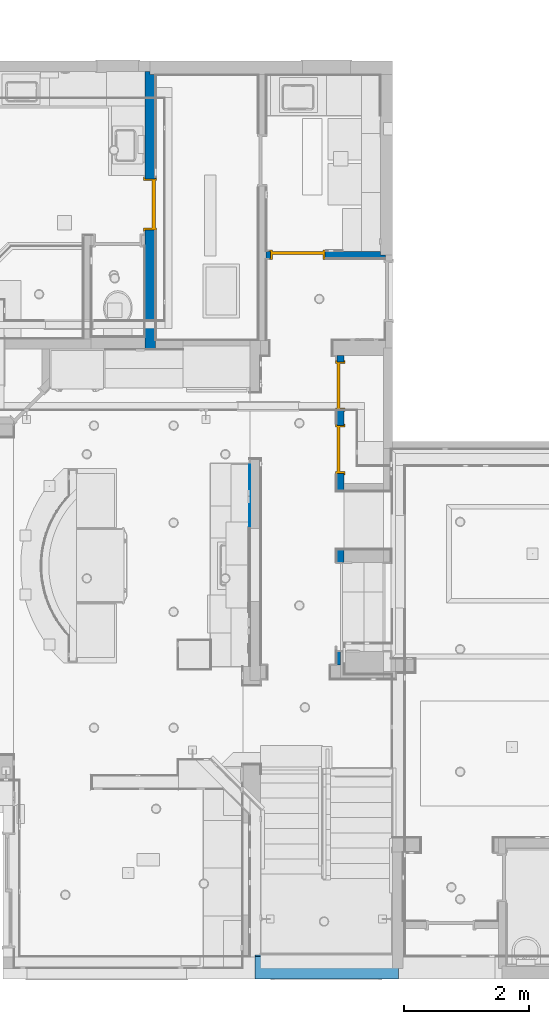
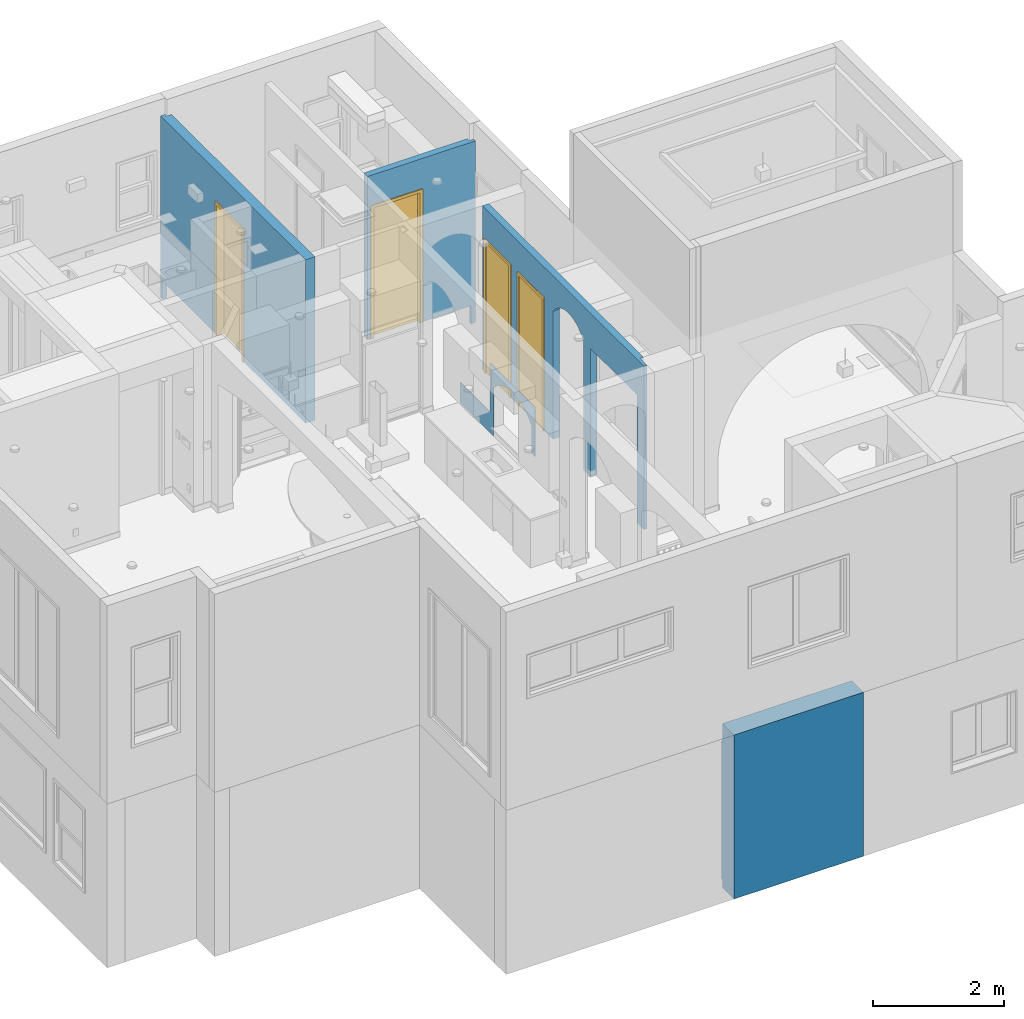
# One storey, part 28 of 60: 5 walls, 4 doors, 4 openings.
"""IFC2X3 building model written with IfcOpenShell, lengths in feet."""

import ifcopenshell
import ifcopenshell.guid

model = None  # the IFC model being written
_history = None  # IfcOwnerHistory: only IFC2X3 demands one
_inside = {}  # id of a spatial element -> (the spatial element, [elements in it])
_under = {}  # id of a project, library or spatial element -> (it, [spatial elements below it])
_declared = {}  # id of a project -> (the project, [libraries it declares])
_typed = {}  # id of a type object -> (the type object, [elements of that type])
_made_of = {}  # id of a material, layer set ... -> (it, [elements and type objects made of it])


def new_model(schema):
    """Start an empty IFC model of exactly this schema.

    Asked for "IFC4X3", IfcOpenShell would pick the latest addendum, in which some entities
    have other attributes; the version numbers below select the first issue.
    IFC2X3 requires an IfcOwnerHistory on every rooted entity: one is made here for all.
    """
    global model, _history
    if schema == "IFC4X3":
        model = ifcopenshell.file(schema_version=(4, 3, 0, 0))
    else:
        model = ifcopenshell.file(schema=schema)
    _inside.clear()
    _under.clear()
    _declared.clear()
    _typed.clear()
    _made_of.clear()
    _history = None
    if model.schema == "IFC2X3":
        org = make("IfcOrganization", Name="unknown")
        user = make(
            "IfcPersonAndOrganization",
            ThePerson=make("IfcPerson", FamilyName="unknown"),
            TheOrganization=org,
        )
        app = make(
            "IfcApplication",
            ApplicationDeveloper=org,
            Version="unknown",
            ApplicationFullName="unknown",
            ApplicationIdentifier="unknown",
        )
        _history = make(
            "IfcOwnerHistory",
            OwningUser=user,
            OwningApplication=app,
            ChangeAction="ADDED",
            CreationDate=0,
        )
    return model


def make(cls, **values):
    """One entity of the class cls with the attributes given. An attribute that is None is left unset."""
    return model.create_entity(
        cls, **{name: value for name, value in values.items() if value is not None}
    )


def entity(cls, *values):
    """Any entity or typed value of the class cls, its attributes in the order of the schema. None: left unset."""
    e = model.create_entity(cls)
    for i, value in enumerate(values):
        if value is not None:
            e[i] = value
    return e


def rooted(cls, **values):
    """An entity with a GlobalId (a new one), such as an element, a storey or a relation."""
    return make(cls, GlobalId=ifcopenshell.guid.new(), OwnerHistory=_history, **values)


def si_unit(unit_type, name, prefix=None):
    """IfcSIUnit, for example si_unit("LENGTHUNIT", "METRE", prefix="MILLI")."""
    return make("IfcSIUnit", UnitType=unit_type, Prefix=prefix, Name=name)


def converted_unit(unit_type, name, factor, base, dimensions=None, offset=None):
    """IfcConversionBasedUnit, such as the inch: factor (a typed value) times the base unit."""
    return make(
        "IfcConversionBasedUnit"
        if offset is None
        else "IfcConversionBasedUnitWithOffset",
        ConversionOffset=offset,
        Dimensions=None
        if dimensions is None
        else entity("IfcDimensionalExponents", *dimensions),
        UnitType=unit_type,
        Name=name,
        ConversionFactor=make(
            "IfcMeasureWithUnit", ValueComponent=factor, UnitComponent=base
        ),
    )


def assignment(units):
    """IfcUnitAssignment: the units of a project."""
    return None if units is None else make("IfcUnitAssignment", Units=units)


def point(xyz):
    """IfcCartesianPoint."""
    return None if xyz is None else make("IfcCartesianPoint", Coordinates=xyz)


def direction(xyz):
    """IfcDirection."""
    return None if xyz is None else make("IfcDirection", DirectionRatios=xyz)


def frame(location, z_axis=None, x_axis=None):
    """IfcAxis2Placement3D, a coordinate frame: its origin and axes. An axis left out is left unset."""
    return make(
        "IfcAxis2Placement3D",
        Location=point(location),
        Axis=direction(z_axis),
        RefDirection=direction(x_axis),
    )


def frame_2d(location, x_axis=None):
    """IfcAxis2Placement2D, a coordinate frame in the plane: its origin and x axis."""
    return make(
        "IfcAxis2Placement2D", Location=point(location), RefDirection=direction(x_axis)
    )


def origin():
    """The frame at (0, 0, 0) with its axes left unset."""
    return frame((0.0, 0.0, 0.0))


def origin_2d_with_axis():
    """The frame at (0, 0) in the plane with the x axis (1, 0) written out."""
    return frame_2d((0.0, 0.0), x_axis=(1.0, 0.0))


def place(relative_to, where):
    """IfcLocalPlacement: puts the frame where relative to a parent placement (None: the world)."""
    return make(
        "IfcLocalPlacement", PlacementRelTo=relative_to, RelativePlacement=where
    )


def context(
    kind, dimensions, precision=None, world=None, true_north=None, identifier=None
):
    """IfcGeometricRepresentationContext, for example the 3D "Model" context."""
    return make(
        "IfcGeometricRepresentationContext",
        ContextIdentifier=identifier,
        ContextType=kind,
        CoordinateSpaceDimension=dimensions,
        Precision=precision,
        WorldCoordinateSystem=world,
        TrueNorth=true_north,
    )


def subcontext(parent, identifier, kind, view, scale=None):
    """IfcGeometricRepresentationSubContext, for example "Body" below "Model"."""
    return make(
        "IfcGeometricRepresentationSubContext",
        ContextIdentifier=identifier,
        ContextType=kind,
        ParentContext=parent,
        TargetScale=scale,
        TargetView=view,
    )


def project(units=None, contexts=None):
    """IfcProject with its units and contexts."""
    return rooted(
        "IfcProject",
        Name="project",
        RepresentationContexts=contexts,
        UnitsInContext=assignment(units),
    )


def spatial(cls, under=None, at=None, **own):
    """A site, building, storey or space (cls), placed at a placement, below another one or the project."""
    s = rooted(cls, ObjectPlacement=at, **own)
    if under is not None:
        _under.setdefault(under.id(), (under, []))[1].append(s)
    return s


def polyline(points):
    """IfcPolyline through the points."""
    return make("IfcPolyline", Points=[point(p) for p in points])


def profile(cls, at=None, kind="AREA", **sizes):
    """A parametric profile (cls). Its sizes go by their IFC names, for example OverallWidth=200.0."""
    return make(cls, ProfileType=kind, Position=at, **sizes)


def rectangle(**sizes):
    """IfcRectangleProfileDef."""
    return profile("IfcRectangleProfileDef", **sizes)


def outline(outer, holes=None, kind="AREA"):
    """IfcArbitraryClosedProfileDef: a profile drawn as a closed curve; with holes, ...WithVoids."""
    if holes is None:
        return make("IfcArbitraryClosedProfileDef", ProfileType=kind, OuterCurve=outer)
    return make(
        "IfcArbitraryProfileDefWithVoids",
        ProfileType=kind,
        OuterCurve=outer,
        InnerCurves=holes,
    )


def extrude(swept, where, along, depth):
    """IfcExtrudedAreaSolid: the profile swept, set in the frame where, extruded along a direction by depth."""
    return make(
        "IfcExtrudedAreaSolid",
        SweptArea=swept,
        Position=where,
        ExtrudedDirection=direction(along),
        Depth=depth,
    )


def faces_of(points, faces, orient=None, outer=None):
    """IfcFace entities. A face is a list of loops; a loop is a list of indices into points, from 0.

    orient and outer hold one flag for each loop. By default every Orientation is true, the
    first loop of a face is its IfcFaceOuterBound and the others are IfcFaceBound.
    """
    made = []
    for i, loops in enumerate(faces):
        bounds = []
        for j, loop in enumerate(loops):
            is_outer = j == 0 if outer is None else outer[i][j]
            bounds.append(
                make(
                    "IfcFaceOuterBound" if is_outer else "IfcFaceBound",
                    Bound=make("IfcPolyLoop", Polygon=[points[k] for k in loop]),
                    Orientation=True if orient is None else orient[i][j],
                )
            )
        made.append(make("IfcFace", Bounds=bounds))
    return made


def faceted_brep(points, faces, orient=None, outer=None, voids=None):
    """IfcFacetedBrep: a solid bounded by flat faces; with voids (closed shells), ...WithVoids."""
    shared = [point(p) for p in points]
    hull = make("IfcClosedShell", CfsFaces=faces_of(shared, faces, orient, outer))
    if voids is None:
        return make("IfcFacetedBrep", Outer=hull)
    return make(
        "IfcFacetedBrepWithVoids",
        Outer=hull,
        Voids=[
            make(cls, CfsFaces=faces_of(shared, fs, o, b)) for cls, fs, o, b in voids
        ],
    )


def shape(context_of_items, identifier, shape_type, items):
    """IfcShapeRepresentation: the items that make up one representation, for example the "Body"."""
    return make(
        "IfcShapeRepresentation",
        ContextOfItems=context_of_items,
        RepresentationIdentifier=identifier,
        RepresentationType=shape_type,
        Items=items,
    )


def source(mapping_origin, context_of_items, identifier, shape_type, items):
    """IfcRepresentationMap: a shape defined once, which mapped items show again and again."""
    return make(
        "IfcRepresentationMap",
        MappingOrigin=mapping_origin,
        MappedRepresentation=shape(context_of_items, identifier, shape_type, items),
    )


def transform(
    local_origin,
    x_axis=None,
    y_axis=None,
    z_axis=None,
    scale=None,
    scale2=None,
    scale3=None,
    uniform=True,
):
    """IfcCartesianTransformationOperator3D, or its non-uniform kind. x_axis, y_axis, z_axis: its Axis1, 2, 3."""
    if uniform:
        return make(
            "IfcCartesianTransformationOperator3D",
            Axis1=direction(x_axis),
            Axis2=direction(y_axis),
            LocalOrigin=point(local_origin),
            Scale=scale,
            Axis3=direction(z_axis),
        )
    return make(
        "IfcCartesianTransformationOperator3DnonUniform",
        Axis1=direction(x_axis),
        Axis2=direction(y_axis),
        LocalOrigin=point(local_origin),
        Scale=scale,
        Axis3=direction(z_axis),
        Scale2=scale2,
        Scale3=scale3,
    )


def mapped(mapping_source, mapping_target):
    """IfcMappedItem: shows the shape of a source again, moved by a transform."""
    return make(
        "IfcMappedItem", MappingSource=mapping_source, MappingTarget=mapping_target
    )


def material(Name=None, Category=None):
    """IfcMaterial."""
    return make("IfcMaterial", Name=Name, Category=Category)


def layer(
    of_material, thickness, ventilated=None, Name=None, Category=None, Priority=None
):
    """IfcMaterialLayer: one layer of a wall or slab, of a material (None: an air gap)."""
    return make(
        "IfcMaterialLayer",
        Material=of_material,
        LayerThickness=thickness,
        IsVentilated=ventilated,
        Name=Name,
        Category=Category,
        Priority=Priority,
    )


def layer_set(layers, Name=None):
    """IfcMaterialLayerSet."""
    return make("IfcMaterialLayerSet", MaterialLayers=layers, LayerSetName=Name)


def made_of(thing, what):
    """Note that an element or type object is made of a material, layer set ...; save() writes the relation."""
    if what is not None:
        _made_of.setdefault(what.id(), (what, []))[1].append(thing)
    return thing


def type_object(cls, material=None, **own):
    """A type object (cls), such as IfcWallType, which elements share."""
    return made_of(rooted(cls, **own), material)


def type_shapes(of_type, sources):
    """Give a type object the sources (RepresentationMaps) that its elements show as mapped items."""
    of_type.RepresentationMaps = sources


def element(
    cls,
    number,
    at=None,
    inside=None,
    cuts=None,
    type_object=None,
    material=None,
    context=None,
    identifier="Body",
    shape_type=None,
    held_by="IfcProductDefinitionShape",
    body=None,
    shapes=None,
    **own,
):
    """One element of the class cls, such as IfcWall. Its Tag is "e" and its number.

    at: its placement. inside: the storey or other place that contains it. cuts: it is an
    opening in that element (IfcRelVoidsElement). A single representation is given by context,
    identifier, shape_type and body (its items); several are given by shapes. held_by: the class
    of the entity that holds the representations. save() writes the other relations.
    """
    e = rooted(cls, Tag="e%d" % number, ObjectPlacement=at, **own)
    if body is not None:
        shapes = [shape(context, identifier, shape_type, body)]
    if shapes is not None:
        e.Representation = make(held_by, Representations=shapes)
    if inside is not None:
        _inside.setdefault(inside.id(), (inside, []))[1].append(e)
    if cuts is not None:
        rooted(
            "IfcRelVoidsElement", RelatingBuildingElement=cuts, RelatedOpeningElement=e
        )
    if type_object is not None:
        _typed.setdefault(type_object.id(), (type_object, []))[1].append(e)
    return made_of(e, material)


def fill(opening, filler):
    """IfcRelFillsElement: the door or window that sits in an opening."""
    return rooted(
        "IfcRelFillsElement",
        RelatingOpeningElement=opening,
        RelatedBuildingElement=filler,
    )


def aggregate(whole, parts):
    """IfcRelAggregates: a whole, such as a stair, and the parts it consists of."""
    return rooted("IfcRelAggregates", RelatingObject=whole, RelatedObjects=parts)


def save(model, path):
    """Write the relations noted so far, then the file.

    IfcRelAggregates (storeys below a building ...), IfcRelContainedInSpatialStructure (elements
    in a storey), IfcRelDefinesByType, IfcRelAssociatesMaterial and IfcRelDeclares: one each for
    every whole, place, type object, material and project.
    """
    for whole, parts in _under.values():
        aggregate(whole, parts)
    for where, things in _inside.values():
        rooted(
            "IfcRelContainedInSpatialStructure",
            RelatedElements=things,
            RelatingStructure=where,
        )
    for kind, things in _typed.values():
        rooted("IfcRelDefinesByType", RelatedObjects=things, RelatingType=kind)
    for what, things in _made_of.values():
        rooted("IfcRelAssociatesMaterial", RelatedObjects=things, RelatingMaterial=what)
    for by, libraries in _declared.values():
        rooted("IfcRelDeclares", RelatingContext=by, RelatedDefinitions=libraries)
    model.write(path)


model = new_model("IFC2X3")

# Units and contexts
model_context = context("Model", 3, precision=0.0001, world=origin(), true_north=direction((6.123031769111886e-17, 1.0)))
plan_context = context("Plan", 3, precision=0.0001, world=origin(), true_north=direction((6.123031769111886e-17, 1.0)))
body_context = subcontext(model_context, "Body", "Model", "MODEL_VIEW")
ifc_project = project(units=[converted_unit("LENGTHUNIT", "FOOT", entity("IfcLengthMeasure", 0.3048), si_unit("LENGTHUNIT", "METRE"), dimensions=[1, 0, 0, 0, 0, 0, 0]), converted_unit("AREAUNIT", "SQUARE FOOT", entity("IfcAreaMeasure", 0.09290304), si_unit("AREAUNIT", "SQUARE_METRE"), dimensions=[2, 0, 0, 0, 0, 0, 0]), converted_unit("PLANEANGLEUNIT", "DEGREE", entity("IfcPlaneAngleMeasure", 0.017453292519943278), si_unit("PLANEANGLEUNIT", "RADIAN"), dimensions=[0, 0, 0, 0, 0, 0, 0])], contexts=[model_context, plan_context])

# Site, building, storey
site_placement = place(None, origin())
site = spatial("IfcSite", under=ifc_project, at=site_placement, Name="Default", CompositionType="ELEMENT")
building_placement = place(site_placement, origin())
building = spatial("IfcBuilding", under=site, at=building_placement, CompositionType="ELEMENT")
storey_placement = place(building_placement, origin())
storey = spatial("IfcBuildingStorey", under=building, at=storey_placement, Name="First floor", CompositionType="ELEMENT", Elevation=0.0)

# Wall, opening, door
ifc_material = material(Name="Default New Material")
ifc_layer_1 = layer(ifc_material, 0.5416666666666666)
ifc_layer_set_1 = layer_set([ifc_layer_1], Name="Basic Wall:Wall_6.5\"")
wall_type_1 = type_object("IfcWallType", Name="Basic Wall:Wall_6.5\"", PredefinedType="STANDARD", material=ifc_layer_set_1)
wall_1_placement = place(storey_placement, frame((7.687499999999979, 32.958333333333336, 9.541666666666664), z_axis=(0.0, 0.0, 1.0), x_axis=(0.0, 1.0, 0.0)))
wall_1 = element("IfcWall", 1, at=wall_1_placement, inside=storey, type_object=wall_type_1, Name="Basic Wall:Wall_6.5\"", ObjectType="Basic Wall:Wall_6.5\"", context=body_context, shape_type="Brep", body=[
    faceted_brep([(14.374654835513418, -0.270833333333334, 11.125), (0.4583333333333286, -0.2708333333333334, 11.125), (0.0, -0.2708333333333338, 11.125), (0.0, -0.2708333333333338, 1.1250000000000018), (0.4583333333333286, -0.2708333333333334, 1.1250000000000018), (6.249654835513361, -0.2708333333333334, 1.1250000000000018), (6.249654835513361, -0.2708333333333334, 9.208333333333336), (8.916321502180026, -0.27083333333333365, 9.208333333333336), (8.916321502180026, -0.27083333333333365, 1.1250000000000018), (14.374654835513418, -0.270833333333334, 1.1250000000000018), (0.0, 0.27083333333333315, 11.125), (0.625, 0.2708333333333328, 11.125), (5.416321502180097, 0.27083333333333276, 11.125), (5.957988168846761, 0.27083333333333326, 11.125), (14.54132150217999, 0.27083333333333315, 11.125), (14.54132150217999, 0.27083333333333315, 1.1250000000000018), (14.54132150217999, 0.27083333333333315, 0.0), (14.374654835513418, 0.270833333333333, 0.0), (14.374654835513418, 0.270833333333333, 1.1250000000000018), (8.916321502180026, 0.2708333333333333, 1.1250000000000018), (8.916321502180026, 0.2708333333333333, 9.208333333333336), (6.249654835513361, 0.27083333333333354, 9.208333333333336), (6.249654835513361, 0.27083333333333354, 1.1250000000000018), (5.957988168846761, 0.27083333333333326, 1.1250000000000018), (5.416321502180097, 0.27083333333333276, 1.1250000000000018), (0.625, 0.2708333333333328, 1.1250000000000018), (0.0, 0.27083333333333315, 1.1250000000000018), (14.54132150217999, 0.0, 0.0), (14.374654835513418, 0.0, 0.0), (14.374654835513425, 0.0, 11.125), (14.54132150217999, 0.0, 11.125), (14.374654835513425, 0.0, 1.1250000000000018)], [[[0, 1, 2, 3, 4, 5, 6, 7, 8, 9]], [[10, 11, 12, 13, 14, 15, 16, 17, 18, 19, 20, 21, 22, 23, 24, 25, 26]], [[16, 27, 28, 17]], [[2, 1, 0, 29, 30, 14, 13, 12, 11, 10]], [[2, 10, 26, 3]], [[29, 0, 9, 31]], [[28, 27, 30, 29, 31]], [[27, 16, 15, 14, 30]], [[18, 31, 9, 8, 19]], [[31, 18, 17, 28]], [[20, 19, 8, 7]], [[21, 20, 7, 6]], [[22, 21, 6, 5]], [[5, 4, 3, 26, 25, 24, 23, 22]]]),
])
opening_1_placement = place(wall_1_placement, frame((8.916321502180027, 0.2708333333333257, 1.1250000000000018)))
opening_1 = element("IfcOpeningElement", 2, at=opening_1_placement, cuts=wall_1, Name="C_Single Door:2'-6\" X 8'-0\":1", ObjectType="Opening", context=body_context, shape_type="SweptSolid", body=[
    extrude(rectangle(XDim=2.666666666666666, YDim=8.083333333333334, at=frame_2d((4.041666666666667, 1.333333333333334), x_axis=(0.0, -1.0))), frame((0.0, 0.0, 0.0), z_axis=(0.0, -1.0, 0.0), x_axis=(0.0, 0.0, 1.0)), (0.0, 0.0, 1.0), 0.5416666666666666),
])
door_style_1 = type_object("IfcDoorStyle", Name="C_Single Door:2'-6\" X 8'-0\"", ConstructionType="NOTDEFINED", OperationType="SINGLE_SWING_LEFT", ParameterTakesPrecedence=False, Sizeable=False, material=ifc_material)
shared_shape_1 = source(origin(), body_context, "Body", "SweptSolid", [
    extrude(rectangle(XDim=0.16666666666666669, YDim=2.499999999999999, at=origin_2d_with_axis()), frame((1.3333333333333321, 0.08333333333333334, 0.0), z_axis=(0.0, 0.0, 1.0), x_axis=(0.0, 1.0, 0.0)), (0.0, 0.0, 1.0), 8.0),
    extrude(outline(polyline([(-3.958333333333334, 1.2499999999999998), (4.041666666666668, 1.2499999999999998), (4.041666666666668, 1.4166666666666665), (-4.125000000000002, 1.4166666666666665), (-4.125000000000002, -1.4166666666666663), (4.041666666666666, -1.4166666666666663), (4.041666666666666, -1.2499999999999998), (-3.958333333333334, -1.2499999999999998), (-3.958333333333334, 1.2499999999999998)])), frame((1.333333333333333, -0.0625, 4.041666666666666), z_axis=(0.0, 1.0, 0.0), x_axis=(0.0, 0.0, -1.0)), (0.0, 0.0, 1.0), 0.0625),
    extrude(outline(polyline([(-3.958333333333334, 1.2499999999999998), (4.041666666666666, 1.2499999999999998), (4.041666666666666, 1.4166666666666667), (-4.125, 1.4166666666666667), (-4.125, -1.4166666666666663), (4.041666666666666, -1.4166666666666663), (4.041666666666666, -1.2500000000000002), (-3.958333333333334, -1.2500000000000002), (-3.958333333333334, 1.2499999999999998)])), frame((1.3333333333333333, 0.5416666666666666, 4.041666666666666), z_axis=(0.0, 1.0, 0.0), x_axis=(0.0, 0.0, -1.0)), (0.0, 0.0, 1.0), 0.0625),
    extrude(outline(polyline([(-4.020833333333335, -1.3333333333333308), (4.062499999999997, -1.3333333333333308), (4.062499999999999, 1.3333333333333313), (-4.020833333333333, 1.3333333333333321), (-4.020833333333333, 1.2499999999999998), (3.979166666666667, 1.2499999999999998), (3.979166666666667, -1.2499999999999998), (-4.020833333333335, -1.2499999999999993), (-4.020833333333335, -1.3333333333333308)])), frame((1.3333333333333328, 0.0, 4.020833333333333), z_axis=(0.0, 1.0, 0.0), x_axis=(0.0, 0.0, 1.0)), (0.0, 0.0, 1.0), 0.5416666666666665),
])
type_shapes(door_style_1, [shared_shape_1])
door_1_placement = place(opening_1_placement, frame((-2.6666666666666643, -0.5416666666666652, 0.0)))
door_1 = element("IfcDoor", 3, at=door_1_placement, inside=storey, type_object=door_style_1, material=ifc_material, Name="C_Single Door:2'-6\" X 8'-0\"", ObjectType="C_Single Door:2'-6\" X 8'-0\"", OverallHeight=8.083333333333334, OverallWidth=2.6666666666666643, context=body_context, shape_type="MappedRepresentation", body=[
    mapped(shared_shape_1, transform((0.0, 0.0, 0.0), scale=1.0)),
])
fill(opening_1, door_1)

ifc_layer_2 = layer(ifc_material, 0.375)
ifc_layer_set_2 = layer_set([ifc_layer_2], Name="Basic Wall:Wall_4.5\"")
wall_type_2 = type_object("IfcWallType", Name="Basic Wall:Wall_4.5\"", PredefinedType="STANDARD", material=ifc_layer_set_2)
wall_2_placement = place(storey_placement, frame((20.0, 37.895488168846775, 9.541666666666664), z_axis=(0.0, 0.0, 1.0), x_axis=(-1.0, 0.0, 0.0)))
wall_2 = element("IfcWall", 4, at=wall_2_placement, inside=storey, type_object=wall_type_2, Name="Basic Wall:Wall_4.5\"", ObjectType="Basic Wall:Wall_4.5\"", context=body_context, shape_type="Brep", body=[
    faceted_brep([(6.250000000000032, -0.1875, 11.125), (0.25000000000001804, -0.1875, 11.125), (0.25000000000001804, -0.1875, 1.1250000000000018), (3.1666666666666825, -0.1874999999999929, 1.1250000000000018), (3.1666666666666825, -0.1874999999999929, 9.208333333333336), (6.0, -0.1875, 9.208333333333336), (6.0, -0.1875, 1.1250000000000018), (6.208333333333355, -0.1875, 1.1250000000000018), (6.250000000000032, -0.1875, 1.1250000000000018), (6.250000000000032, -0.1875, 1.4583333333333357), (0.0, 0.1875, 11.125), (6.250000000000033, 0.1875, 11.125), (6.250000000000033, 0.1875, 1.1250000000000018), (6.0, 0.1875, 1.1250000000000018), (6.0, 0.1875, 9.208333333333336), (3.166666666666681, 0.1875000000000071, 9.208333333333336), (3.166666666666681, 0.1875000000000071, 1.1250000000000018), (0.2500000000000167, 0.1875, 1.1250000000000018), (0.2500000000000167, 0.1875, 0.0), (0.0, 0.1875, 0.0), (0.0, 0.1875, 1.1250000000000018), (0.2500000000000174, 0.0, 0.0), (0.0, 0.0, 0.0), (0.0, 0.0, 11.125), (0.2500000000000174, 0.0, 11.125), (0.2500000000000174, 0.0, 1.1250000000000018)], [[[0, 1, 2, 3, 4, 5, 6, 7, 8, 9]], [[10, 11, 12, 13, 14, 15, 16, 17, 18, 19, 20]], [[21, 22, 19, 18]], [[1, 0, 11, 10, 23, 24]], [[1, 24, 25, 2]], [[24, 23, 22, 21, 25]], [[23, 10, 20, 19, 22]], [[11, 0, 9, 8, 12]], [[8, 7, 6, 13, 12]], [[17, 25, 21, 18]], [[4, 3, 16, 15]], [[5, 4, 15, 14]], [[6, 5, 14, 13]], [[25, 17, 16, 3, 2]]]),
])
opening_2_placement = place(wall_2_placement, frame((6.0, 0.18749999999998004, 1.1250000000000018)))
opening_2 = element("IfcOpeningElement", 5, at=opening_2_placement, cuts=wall_2, Name="C_Single Door:2'-8\" X 8'-0\":1", ObjectType="Opening", context=body_context, shape_type="SweptSolid", body=[
    extrude(rectangle(XDim=2.833333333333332, YDim=8.083333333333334, at=frame_2d((4.041666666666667, 1.416666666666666), x_axis=(0.0, 1.0))), frame((0.0, 0.0, 0.0), z_axis=(0.0, -1.0, 0.0), x_axis=(0.0, 0.0, 1.0)), (0.0, 0.0, 1.0), 0.375),
])
door_style_2 = type_object("IfcDoorStyle", Name="C_Single Door:2'-8\" X 8'-0\"", ConstructionType="NOTDEFINED", OperationType="SINGLE_SWING_RIGHT", ParameterTakesPrecedence=False, Sizeable=False, material=ifc_material)
shared_shape_2 = source(origin(), body_context, "Body", "SweptSolid", [
    extrude(rectangle(XDim=2.666666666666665, YDim=0.16666666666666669, at=origin_2d_with_axis()), frame((1.4166666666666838, 0.08333333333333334, 0.0)), (0.0, 0.0, 1.0), 8.0),
    extrude(outline(polyline([(-3.958333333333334, 1.333333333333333), (4.041666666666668, 1.333333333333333), (4.041666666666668, 1.4999999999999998), (-4.125000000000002, 1.4999999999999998), (-4.125000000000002, -1.5), (4.041666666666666, -1.5), (4.041666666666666, -1.333333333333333), (-3.958333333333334, -1.333333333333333), (-3.958333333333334, 1.333333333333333)])), frame((1.416666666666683, 0.0, 4.041666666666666), z_axis=(0.0, -1.0, 0.0), x_axis=(0.0, 0.0, -1.0)), (0.0, 0.0, 1.0), 0.0625),
    extrude(outline(polyline([(-3.958333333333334, 1.3333333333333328), (4.041666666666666, 1.3333333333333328), (4.041666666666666, 1.4999999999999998), (-4.125, 1.4999999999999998), (-4.125, -1.4999999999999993), (4.041666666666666, -1.4999999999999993), (4.041666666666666, -1.3333333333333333), (-3.958333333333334, -1.3333333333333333), (-3.958333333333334, 1.3333333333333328)])), frame((1.4166666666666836, 0.4375, 4.041666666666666), z_axis=(0.0, -1.0, 0.0), x_axis=(0.0, 0.0, -1.0)), (0.0, 0.0, 1.0), 0.0625),
    extrude(outline(polyline([(1.3333333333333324, -4.020833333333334), (1.4166666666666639, -4.020833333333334), (1.4166666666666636, 4.062499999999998), (-1.416666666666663, 4.062499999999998), (-1.4166666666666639, -4.020833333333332), (-1.3333333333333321, -4.020833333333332), (-1.333333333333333, 3.979166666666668), (1.3333333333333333, 3.979166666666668), (1.3333333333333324, -4.020833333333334)])), frame((1.4166666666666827, 0.375, 4.020833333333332), z_axis=(0.0, -1.0, 0.0), x_axis=(1.0, 0.0, 0.0)), (0.0, 0.0, 1.0), 0.375),
])
type_shapes(door_style_2, [shared_shape_2])
door_2_placement = place(opening_2_placement, frame((-2.8333333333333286, -0.3749999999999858, 0.0)))
door_2 = element("IfcDoor", 6, at=door_2_placement, inside=storey, type_object=door_style_2, material=ifc_material, Name="C_Single Door:2'-8\" X 8'-0\"", ObjectType="C_Single Door:2'-8\" X 8'-0\"", OverallHeight=8.083333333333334, OverallWidth=2.833333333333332, context=body_context, shape_type="MappedRepresentation", body=[
    mapped(shared_shape_2, transform((0.0, 0.0, 0.0), scale=1.0)),
])
fill(opening_2, door_2)

# Wall, openings, doors
wall_3_placement = place(storey_placement, frame((17.645833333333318, 16.41632150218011, 10.666666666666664), z_axis=(0.0, 0.0, 1.0), x_axis=(0.0, 1.0, 0.0)))
wall_3 = element("IfcWall", 7, at=wall_3_placement, inside=storey, type_object=wall_type_2, Name="Basic Wall:Wall_4.5\"", ObjectType="Basic Wall:Wall_4.5\"", context=body_context, shape_type="Brep", body=[
    faceted_brep([(6.041666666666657, -0.18749999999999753, 0.0), (5.3749999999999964, -0.18749999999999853, 0.0), (5.3749999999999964, 0.18750000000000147, 0.0), (6.041666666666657, 0.18750000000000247, 0.0), (13.374999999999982, -0.18750000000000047, 0.0), (12.54166666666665, -0.1874999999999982, 0.0), (12.54166666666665, 0.1875000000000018, 0.0), (13.374999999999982, 0.18749999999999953, 0.0), (16.20833333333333, -0.1874999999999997, 0.0), (15.874999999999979, -0.1875000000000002, 0.0), (15.874999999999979, 0.1874999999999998, 0.0), (16.20833333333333, 0.1875000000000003, 0.0), (0.7083333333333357, 0.0, 0.0), (0.0, 0.0, 0.0), (0.0, 0.1875000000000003, 0.0), (0.04166666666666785, 0.1875000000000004, 0.0), (0.7083333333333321, 0.18750000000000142, 0.0), (9.499999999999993, -0.1874999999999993, 0.0), (9.124999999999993, -0.1874999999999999, 0.0), (9.124999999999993, 0.1875000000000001, 0.0), (10.04166666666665, 0.18750000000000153, 0.0), (10.04166666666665, -0.18749999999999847, 0.0), (6.041666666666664, -0.18750000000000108, 7.833333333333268), (6.199530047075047, -0.18750000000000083, 8.040783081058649), (6.3850877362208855, -0.18750000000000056, 8.223880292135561), (6.594626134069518, -0.18750000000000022, 8.378960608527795), (6.823951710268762, -0.18749999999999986, 8.502920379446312), (7.068474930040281, -0.1874999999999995, 8.593278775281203), (7.323302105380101, -0.1874999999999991, 8.648227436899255), (7.583333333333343, -0.1874999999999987, 8.666666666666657), (7.843364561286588, -0.1874999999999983, 8.648227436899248), (8.098191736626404, -0.18749999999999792, 8.593278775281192), (8.342714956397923, -0.18750000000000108, 8.502920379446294), (8.572040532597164, -0.18750000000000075, 8.378960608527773), (8.781578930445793, -0.18750000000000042, 8.223880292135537), (8.967136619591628, -0.18750000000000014, 8.04078308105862), (9.124999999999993, -0.1874999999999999, 7.833333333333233), (10.04166666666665, -0.18749999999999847, 8.083333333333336), (12.54166666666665, -0.1874999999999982, 8.083333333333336), (13.374999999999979, -0.18750000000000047, 8.083333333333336), (15.874999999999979, -0.1875000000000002, 8.083333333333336), (16.20833333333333, -0.1874999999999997, 10.0), (9.499999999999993, -0.1874999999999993, 10.0), (9.124999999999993, -0.1874999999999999, 10.0), (6.0416666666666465, -0.18750000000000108, 10.0), (5.374999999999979, -0.18749999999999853, 10.0), (0.7083333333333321, -0.18749999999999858, 10.0), (0.7083333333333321, -0.18749999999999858, 7.833333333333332), (5.3749999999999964, -0.18749999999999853, 7.833333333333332), (15.874999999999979, 0.1874999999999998, 8.083333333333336), (13.374999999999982, 0.18749999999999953, 8.083333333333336), (12.54166666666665, 0.1875000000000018, 8.083333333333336), (10.04166666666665, 0.18750000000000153, 8.083333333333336), (9.125000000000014, 0.1875000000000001, 7.833333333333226), (8.967136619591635, 0.18749999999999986, 8.040783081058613), (8.781578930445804, 0.18749999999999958, 8.223880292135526), (8.572040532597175, 0.18749999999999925, 8.378960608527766), (8.342714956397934, 0.18749999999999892, 8.50292037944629), (8.098191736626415, 0.18750000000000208, 8.593278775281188), (7.843364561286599, 0.1875000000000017, 8.648227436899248), (7.583333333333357, 0.1875000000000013, 8.666666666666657), (7.323302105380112, 0.1875000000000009, 8.648227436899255), (7.068474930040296, 0.1875000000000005, 8.593278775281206), (6.823951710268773, 0.18750000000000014, 8.502920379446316), (6.594626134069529, 0.18749999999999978, 8.378960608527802), (6.385087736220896, 0.18749999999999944, 8.223880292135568), (6.199530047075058, 0.18749999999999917, 8.04078308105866), (6.041666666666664, 0.18749999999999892, 7.833333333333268), (5.3749999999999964, 0.18750000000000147, 7.833333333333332), (0.7083333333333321, 0.18750000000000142, 7.833333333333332), (0.0, 0.1875000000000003, 0.3333333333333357), (0.0, 0.1875000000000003, 10.0), (16.20833333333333, 0.1875000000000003, 10.0), (0.0, 0.0, 10.0), (0.7083333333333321, 0.0, 10.0), (0.7083333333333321, 0.0, 7.833333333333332)], [[[0, 1, 2, 3]], [[4, 5, 6, 7]], [[8, 9, 10, 11]], [[12, 13, 14, 15, 16]], [[17, 18, 19, 20, 21]], [[1, 0, 22, 23, 24, 25, 26, 27, 28, 29, 30, 31, 32, 33, 34, 35, 36, 18, 17, 21, 37, 38, 5, 4, 39, 40, 9, 8, 41, 42, 43, 44, 45, 46, 47, 48]], [[10, 49, 50, 7, 6, 51, 52, 20, 19, 53, 54, 55, 56, 57, 58, 59, 60, 61, 62, 63, 64, 65, 66, 67, 3, 2, 68, 69, 16, 15, 14, 70, 71, 72, 11]], [[42, 41, 72, 71, 73, 74, 46, 45, 44, 43]], [[8, 11, 72, 41]], [[74, 75, 47, 46]], [[73, 13, 12, 75, 74]], [[70, 14, 13, 73, 71]], [[19, 18, 36, 53]], [[67, 22, 0, 3]], [[55, 54, 35, 34]], [[55, 34, 33, 56]], [[31, 30, 59, 58]], [[58, 57, 32, 31]], [[57, 56, 33, 32]], [[60, 59, 30, 29]], [[36, 35, 54, 53]], [[62, 61, 28, 27]], [[62, 27, 26, 63]], [[24, 23, 66, 65]], [[65, 64, 25, 24]], [[64, 63, 26, 25]], [[67, 66, 23, 22]], [[28, 61, 60, 29]], [[75, 69, 68, 48, 47]], [[69, 75, 12, 16]], [[2, 1, 48, 68]], [[51, 6, 5, 38]], [[52, 51, 38, 37]], [[50, 49, 40, 39]], [[20, 52, 37, 21]], [[49, 10, 9, 40]], [[7, 50, 39, 4]]]),
])
opening_3_placement = place(wall_3_placement, frame((13.374999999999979, -0.1875000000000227, 0.0)))
opening_3 = element("IfcOpeningElement", 8, at=opening_3_placement, cuts=wall_3, Name="C_Single Door:2'-4\" X 8'-0\":1", ObjectType="Opening", context=body_context, shape_type="SweptSolid", body=[
    extrude(rectangle(XDim=2.4999999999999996, YDim=8.083333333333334, at=frame_2d((4.041666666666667, 1.2500000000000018), x_axis=(0.0, 1.0))), frame((0.0, 0.0, 0.0), z_axis=(0.0, 1.0, 0.0), x_axis=(0.0, 0.0, 1.0)), (0.0, 0.0, 1.0), 0.375),
])
opening_4_placement = place(wall_3_placement, frame((10.04166666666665, -0.1875000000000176, 0.0)))
opening_4 = element("IfcOpeningElement", 9, at=opening_4_placement, cuts=wall_3, Name="C_Single Door:2'-4\" X 8'-0\":1", ObjectType="Opening", context=body_context, shape_type="SweptSolid", body=[
    extrude(rectangle(XDim=2.4999999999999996, YDim=8.083333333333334, at=frame_2d((4.041666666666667, 1.25), x_axis=(0.0, 1.0))), frame((0.0, 0.0, 0.0), z_axis=(0.0, 1.0, 0.0), x_axis=(0.0, 0.0, 1.0)), (0.0, 0.0, 1.0), 0.375),
])
door_style_3 = type_object("IfcDoorStyle", Name="C_Single Door:2'-4\" X 8'-0\"", ConstructionType="NOTDEFINED", OperationType="SINGLE_SWING_RIGHT", ParameterTakesPrecedence=False, Sizeable=False, material=ifc_material)
shared_shape_3 = source(origin(), body_context, "Body", "SweptSolid", [
    extrude(rectangle(XDim=2.333333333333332, YDim=0.16666666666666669, at=origin_2d_with_axis()), frame((1.2500000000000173, 0.08333333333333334, 0.0)), (0.0, 0.0, 1.0), 8.0),
    extrude(outline(polyline([(-3.958333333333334, 1.1666666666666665), (4.041666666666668, 1.1666666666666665), (4.041666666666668, 1.3333333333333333), (-4.125000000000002, 1.3333333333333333), (-4.125000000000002, -1.3333333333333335), (4.041666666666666, -1.3333333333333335), (4.041666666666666, -1.1666666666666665), (-3.958333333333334, -1.1666666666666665), (-3.958333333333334, 1.1666666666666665)])), frame((1.2500000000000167, 0.0, 4.041666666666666), z_axis=(0.0, -1.0, 0.0), x_axis=(0.0, 0.0, -1.0)), (0.0, 0.0, 1.0), 0.0625),
    extrude(outline(polyline([(-3.958333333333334, 1.1666666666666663), (4.041666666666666, 1.1666666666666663), (4.041666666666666, 1.3333333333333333), (-4.125, 1.3333333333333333), (-4.125, -1.3333333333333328), (4.041666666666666, -1.3333333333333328), (4.041666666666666, -1.1666666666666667), (-3.958333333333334, -1.1666666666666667), (-3.958333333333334, 1.1666666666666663)])), frame((1.2500000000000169, 0.4375, 4.041666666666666), z_axis=(0.0, -1.0, 0.0), x_axis=(0.0, 0.0, -1.0)), (0.0, 0.0, 1.0), 0.0625),
    extrude(outline(polyline([(1.1666666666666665, -4.020833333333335), (1.249999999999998, -4.020833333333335), (1.2499999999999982, 4.0625), (-1.2499999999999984, 4.0625), (-1.2499999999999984, -4.020833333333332), (-1.1666666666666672, -4.020833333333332), (-1.1666666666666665, 3.979166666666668), (1.1666666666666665, 3.979166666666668), (1.1666666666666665, -4.020833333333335)])), frame((1.2500000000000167, 0.375, 4.020833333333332), z_axis=(0.0, -1.0, 0.0), x_axis=(1.0, 0.0, 0.0)), (0.0, 0.0, 1.0), 0.375),
])
type_shapes(door_style_3, [shared_shape_3])
door_3_placement = place(opening_3_placement, frame((2.5000000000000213, 0.37499999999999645, 0.0), z_axis=(0.0, 0.0, 1.0), x_axis=(-1.0, 0.0, 0.0)))
door_3 = element("IfcDoor", 10, at=door_3_placement, inside=storey, type_object=door_style_3, material=ifc_material, Name="C_Single Door:2'-4\" X 8'-0\"", ObjectType="C_Single Door:2'-4\" X 8'-0\"", OverallHeight=8.083333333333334, OverallWidth=2.5, context=body_context, shape_type="MappedRepresentation", body=[
    mapped(shared_shape_3, transform((0.0, 0.0, 0.0), scale=1.0)),
])
fill(opening_3, door_3)
door_4_placement = place(opening_4_placement, frame((2.500000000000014, 0.37499999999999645, 0.0), z_axis=(0.0, 0.0, 1.0), x_axis=(-1.0, 0.0, 0.0)))
door_4 = element("IfcDoor", 11, at=door_4_placement, inside=storey, type_object=door_style_3, material=ifc_material, Name="C_Single Door:2'-4\" X 8'-0\"", ObjectType="C_Single Door:2'-4\" X 8'-0\"", OverallHeight=8.083333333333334, OverallWidth=2.5, context=body_context, shape_type="MappedRepresentation", body=[
    mapped(shared_shape_3, transform((0.0, 0.0, 0.0), scale=1.0)),
])
fill(opening_4, door_4)

# Walls
ifc_layer_3 = layer(ifc_material, 1.25)
ifc_layer_set_3 = layer_set([ifc_layer_3], Name="Basic Wall:Wall_1'3\"")
wall_type_3 = type_object("IfcWallType", Name="Basic Wall:Wall_1'3\"", PredefinedType="STANDARD", material=ifc_layer_set_3)
wall_4_placement = place(storey_placement, frame((21.0, 0.6249999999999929, -0.5), z_axis=(0.0, 0.0, 1.0), x_axis=(-1.0, 0.0, 0.0)))
element("IfcWall", 12, at=wall_4_placement, inside=storey, type_object=wall_type_3, Name="Basic Wall:Wall_1'3\"", ObjectType="Basic Wall:Wall_1'3\"", context=body_context, shape_type="Brep", body=[
    faceted_brep([(7.812501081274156, -0.625, 8.916666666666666), (7.541666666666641, -0.6249999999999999, 8.916666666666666), (0.6249999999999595, -0.625, 8.916666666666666), (0.0, -0.625, 8.916666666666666), (0.0, -0.625, 0.5), (0.6249999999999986, -0.625, 0.5), (7.54166774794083, -0.6249999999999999, 0.5), (7.812501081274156, -0.625, 0.5), (7.812501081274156, 0.625, 10.041666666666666), (7.812501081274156, 0.625, 0.0), (0.3124999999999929, 0.625, 0.0), (0.3124999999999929, 0.625, 10.041666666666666), (7.812501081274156, -0.5208333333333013, 0.0), (7.812501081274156, -0.5416666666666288, 0.0), (0.3124999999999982, -0.5416666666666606, 0.0), (0.3124999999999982, -0.5416666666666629, 10.041666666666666), (1.8336182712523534, -0.5416666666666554, 10.041666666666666), (7.812501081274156, -0.5416666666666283, 10.041666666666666), (7.812501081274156, -0.5208333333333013, 10.041666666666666), (0.0, -0.5416666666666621, 8.916666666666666), (0.0, -0.5416666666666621, 0.8333333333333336), (0.0, -0.5416666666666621, 0.5), (0.0, -0.583333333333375, 0.5), (7.812501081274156, -0.5416666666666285, 8.916666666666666), (7.812501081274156, -0.5416666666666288, 0.5), (0.3124999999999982, -0.5416666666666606, 8.916666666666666), (0.3124999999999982, -0.5416666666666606, 0.5), (1.8336182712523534, -0.5416666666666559, 8.916666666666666)], [[[0, 1, 2, 3, 4, 5, 6, 7]], [[8, 9, 10, 11]], [[10, 9, 12, 13, 14]], [[8, 11, 15, 16, 17, 18]], [[3, 19, 20, 21, 22, 4]], [[9, 8, 18, 17, 23, 0, 7, 24, 13, 12]], [[19, 25, 26, 21, 20]], [[11, 10, 14, 26, 25, 15]], [[27, 25, 19, 3, 2, 1, 0, 23]], [[16, 27, 23, 17]], [[27, 16, 15, 25]], [[26, 24, 7, 6, 5, 4, 22, 21]], [[24, 26, 14, 13]]]),
])
ifc_layer_4 = layer(ifc_material, 0.041666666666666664)
ifc_layer_set_4 = layer_set([ifc_layer_4], Name="Basic Wall:Wall Border_T1")
wall_type_4 = type_object("IfcWallType", Name="Basic Wall:Wall Border_T1", PredefinedType="STANDARD", material=ifc_layer_set_4)
wall_5_placement = place(storey_placement, frame((12.895833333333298, 26.916321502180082, 13.666666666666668), z_axis=(0.0, 0.0, 1.0), x_axis=(0.0, -1.0, 0.0)))
element("IfcWall", 13, at=wall_5_placement, inside=storey, type_object=wall_type_4, Name="Basic Wall:Wall Border_T1", ObjectType="Basic Wall:Wall Border_T1", context=body_context, shape_type="Brep", body=[
    faceted_brep([(0.0, -0.020833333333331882, 0.0), (3.3333333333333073, -0.020833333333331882, 0.0), (3.3333333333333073, -0.020833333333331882, 1.25), (3.333333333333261, -0.020833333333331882, 2.916666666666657), (3.4658328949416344, -0.0208333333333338, 3.0611050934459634), (3.5453298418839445, -0.020833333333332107, 3.1477651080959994), (3.6651561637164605, -0.020833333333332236, 3.2489031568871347), (3.7849824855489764, -0.020833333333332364, 3.3500412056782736), (3.916692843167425, -0.020833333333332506, 3.4351272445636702), (4.048403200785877, -0.020833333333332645, 3.520213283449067), (4.18986075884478, -0.020833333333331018, 3.5878668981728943), (4.331318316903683, -0.02083333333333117, 3.6555205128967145), (4.480228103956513, -0.02083333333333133, 3.704644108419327), (4.629137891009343, -0.020833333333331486, 3.753767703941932), (4.783084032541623, -0.020833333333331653, 3.7835643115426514), (4.9370301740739, -0.020833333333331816, 3.813360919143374), (5.09351508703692, -0.020833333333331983, 3.8233471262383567), (5.24999999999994, -0.02083333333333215, 3.8333333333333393), (5.406484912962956, -0.020833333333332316, 3.8233471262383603), (5.562969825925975, -0.020833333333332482, 3.8133609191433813), (5.716915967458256, -0.02083333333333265, 3.783564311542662), (5.870862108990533, -0.020833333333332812, 3.753767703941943), (6.019771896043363, -0.02083333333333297, 3.7046441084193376), (6.168681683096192, -0.02083333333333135, 3.6555205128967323), (6.310139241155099, -0.020833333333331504, 3.5878668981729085), (6.451596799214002, -0.020833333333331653, 3.5202132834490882), (6.583307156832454, -0.020833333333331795, 3.4351272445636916), (6.71501751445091, -0.020833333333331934, 3.350041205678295), (6.834843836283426, -0.020833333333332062, 3.2489031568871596), (6.954670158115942, -0.02083333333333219, 3.1477651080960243), (7.0341671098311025, -0.020833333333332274, 3.0611050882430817), (7.166666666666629, -0.020833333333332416, 2.9166666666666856), (7.166666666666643, -0.020833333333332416, 1.2499999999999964), (7.499999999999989, -0.02083333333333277, 1.2499999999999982), (7.499999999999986, -0.02083333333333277, 4.250000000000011), (3.0, -0.020833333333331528, 4.2499999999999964), (3.0, -0.020833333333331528, 1.25), (0.0, -0.020833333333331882, 1.25), (7.499999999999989, 0.020833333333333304, 1.2499999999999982), (7.166666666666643, 0.02083333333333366, 1.2499999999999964), (7.166666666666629, 0.02083333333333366, 2.9166666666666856), (7.060668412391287, 0.020833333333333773, 3.032215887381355), (6.954670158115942, 0.020833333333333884, 3.1477651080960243), (6.834843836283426, 0.020833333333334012, 3.2489031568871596), (6.71501751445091, 0.02083333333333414, 3.350041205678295), (6.583307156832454, 0.02083333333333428, 3.4351272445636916), (6.451596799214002, 0.02083333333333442, 3.5202132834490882), (6.310139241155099, 0.02083333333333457, 3.5878668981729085), (6.168681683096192, 0.020833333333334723, 3.6555205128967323), (6.019771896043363, 0.02083333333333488, 3.7046441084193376), (5.870862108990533, 0.020833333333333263, 3.753767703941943), (5.716915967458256, 0.020833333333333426, 3.783564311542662), (5.562969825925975, 0.020833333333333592, 3.8133609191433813), (5.406484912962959, 0.02083333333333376, 3.8233471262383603), (5.24999999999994, 0.020833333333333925, 3.8333333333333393), (5.09351508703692, 0.020833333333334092, 3.8233471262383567), (4.9370301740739, 0.02083333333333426, 3.813360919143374), (4.783084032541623, 0.02083333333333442, 3.7835643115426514), (4.629137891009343, 0.020833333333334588, 3.753767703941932), (4.480228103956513, 0.020833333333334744, 3.704644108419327), (4.331318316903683, 0.020833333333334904, 3.6555205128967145), (4.18986075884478, 0.02083333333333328, 3.5878668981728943), (4.048403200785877, 0.02083333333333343, 3.520213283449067), (3.916692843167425, 0.020833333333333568, 3.4351272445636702), (3.7849824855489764, 0.02083333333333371, 3.3500412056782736), (3.6651561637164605, 0.02083333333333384, 3.2489031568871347), (3.5453298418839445, 0.020833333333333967, 3.1477651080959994), (3.439331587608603, 0.020833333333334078, 3.03221588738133), (3.3333333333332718, 0.020833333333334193, 2.916666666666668), (3.3333333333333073, 0.020833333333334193, 1.25), (3.3333333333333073, 0.020833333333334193, 0.0), (0.0, 0.020833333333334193, 0.0), (0.0, 0.020833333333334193, 1.25), (3.0, 0.020833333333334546, 1.25), (3.0, 0.020833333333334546, 4.2499999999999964), (7.499999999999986, 0.020833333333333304, 4.250000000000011)], [[[0, 1, 2, 3, 4, 5, 6, 7, 8, 9, 10, 11, 12, 13, 14, 15, 16, 17, 18, 19, 20, 21, 22, 23, 24, 25, 26, 27, 28, 29, 30, 31, 32, 33, 34, 35, 36, 37]], [[38, 39, 40, 41, 42, 43, 44, 45, 46, 47, 48, 49, 50, 51, 52, 53, 54, 55, 56, 57, 58, 59, 60, 61, 62, 63, 64, 65, 66, 67, 68, 69, 70, 71, 72, 73, 74, 75]], [[1, 0, 71, 70]], [[2, 1, 70, 69, 68, 3]], [[37, 36, 73, 72]], [[0, 37, 72, 71]], [[4, 3, 68, 67, 66, 5]], [[60, 11, 10, 9, 62, 61]], [[65, 64, 7, 6, 5, 66]], [[60, 59, 58, 13, 12, 11]], [[56, 15, 14, 13, 58, 57]], [[62, 9, 8, 7, 64, 63]], [[17, 16, 15, 56, 55, 54]], [[22, 21, 50, 49, 48, 23]], [[52, 51, 50, 21, 20, 19]], [[44, 43, 42, 29, 28, 27]], [[29, 42, 41, 40, 31, 30]], [[46, 45, 44, 27, 26, 25]], [[53, 52, 19, 18, 17, 54]], [[48, 47, 46, 25, 24, 23]], [[32, 31, 40, 39]], [[33, 32, 39, 38]], [[34, 33, 38, 75]], [[35, 34, 75, 74]], [[36, 35, 74, 73]]]),
])

save(model, "model.ifc")
